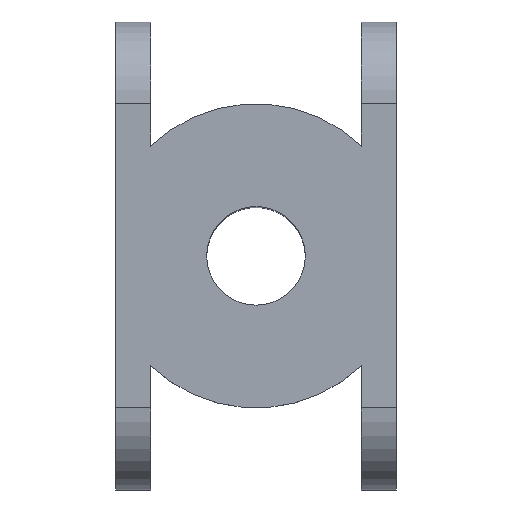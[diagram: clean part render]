
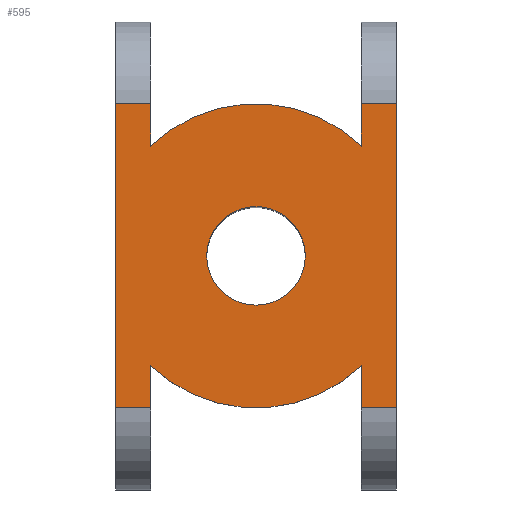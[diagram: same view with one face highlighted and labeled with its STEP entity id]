
A CAD part, top view. The second image highlights one B-rep face of the part: STEP entity #595.
In plain terms, the highlighted planar face has unit normal (0, 0, 1).
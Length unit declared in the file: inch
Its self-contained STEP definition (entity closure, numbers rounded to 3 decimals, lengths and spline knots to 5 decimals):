
#50=LINE('',#901,#106);
#53=LINE('',#915,#109);
#56=LINE('',#932,#112);
#57=LINE('',#938,#113);
#59=LINE('',#943,#115);
#63=LINE('',#950,#119);
#65=LINE('',#962,#121);
#66=LINE('',#970,#122);
#67=LINE('',#972,#123);
#68=LINE('',#975,#124);
#106=VECTOR('',#723,0.2262);
#109=VECTOR('',#738,0.2262);
#112=VECTOR('',#757,0.1875);
#113=VECTOR('',#762,0.1875);
#115=VECTOR('',#768,1.625);
#119=VECTOR('',#774,0.2262);
#121=VECTOR('',#788,0.1875);
#122=VECTOR('',#799,0.1875);
#123=VECTOR('',#802,1.625);
#124=VECTOR('',#805,0.2262);
#147=PLANE('',#652);
#163=FACE_BOUND('',#243,.T.);
#195=FACE_OUTER_BOUND('',#242,.T.);
#242=EDGE_LOOP('',(#535,#536,#537,#538,#539,#540,#541,#542,#543,#544,#545,
#546));
#243=EDGE_LOOP('',(#547));
#246=CIRCLE('',#601,0.2635);
#264=CIRCLE('',#648,0.8125);
#266=CIRCLE('',#651,0.8125);
#268=VERTEX_POINT('',#826);
#292=VERTEX_POINT('',#898);
#293=VERTEX_POINT('',#900);
#297=VERTEX_POINT('',#912);
#298=VERTEX_POINT('',#914);
#304=VERTEX_POINT('',#930);
#305=VERTEX_POINT('',#934);
#307=VERTEX_POINT('',#937);
#310=VERTEX_POINT('',#948);
#314=VERTEX_POINT('',#961);
#315=VERTEX_POINT('',#966);
#316=VERTEX_POINT('',#968);
#317=VERTEX_POINT('',#974);
#320=EDGE_CURVE('',#268,#268,#246,.T.);
#356=EDGE_CURVE('',#293,#292,#50,.T.);
#363=EDGE_CURVE('',#297,#298,#53,.T.);
#371=EDGE_CURVE('',#297,#304,#56,.T.);
#373=EDGE_CURVE('',#305,#307,#57,.T.);
#376=EDGE_CURVE('',#304,#307,#59,.T.);
#380=EDGE_CURVE('',#310,#305,#63,.T.);
#385=EDGE_CURVE('',#293,#314,#65,.T.);
#389=EDGE_CURVE('',#315,#316,#66,.T.);
#390=EDGE_CURVE('',#314,#316,#67,.T.);
#391=EDGE_CURVE('',#317,#315,#68,.T.);
#394=EDGE_CURVE('',#310,#317,#264,.T.);
#396=EDGE_CURVE('',#292,#298,#266,.T.);
#535=ORIENTED_EDGE('',*,*,#394,.T.);
#536=ORIENTED_EDGE('',*,*,#391,.T.);
#537=ORIENTED_EDGE('',*,*,#389,.T.);
#538=ORIENTED_EDGE('',*,*,#390,.F.);
#539=ORIENTED_EDGE('',*,*,#385,.F.);
#540=ORIENTED_EDGE('',*,*,#356,.T.);
#541=ORIENTED_EDGE('',*,*,#396,.T.);
#542=ORIENTED_EDGE('',*,*,#363,.F.);
#543=ORIENTED_EDGE('',*,*,#371,.T.);
#544=ORIENTED_EDGE('',*,*,#376,.T.);
#545=ORIENTED_EDGE('',*,*,#373,.F.);
#546=ORIENTED_EDGE('',*,*,#380,.F.);
#547=ORIENTED_EDGE('',*,*,#320,.T.);
#595=ADVANCED_FACE('',(#195,#163),#147,.T.);
#601=AXIS2_PLACEMENT_3D('',#827,#660,#661);
#648=AXIS2_PLACEMENT_3D('',#980,#810,#811);
#651=AXIS2_PLACEMENT_3D('',#983,#816,#817);
#652=AXIS2_PLACEMENT_3D('',#984,#818,#819);
#660=DIRECTION('center_axis',(0.,0.,-1.));
#661=DIRECTION('ref_axis',(1.,0.,0.));
#723=DIRECTION('',(0.,-1.,0.));
#738=DIRECTION('',(0.,-1.,0.));
#757=DIRECTION('',(-1.,0.,0.));
#762=DIRECTION('',(-1.,0.,0.));
#768=DIRECTION('',(0.,-1.,0.));
#774=DIRECTION('',(0.,-1.,0.));
#788=DIRECTION('',(1.,0.,0.));
#799=DIRECTION('',(1.,0.,0.));
#802=DIRECTION('',(0.,-1.,0.));
#805=DIRECTION('',(0.,-1.,0.));
#810=DIRECTION('center_axis',(0.,0.,1.));
#811=DIRECTION('ref_axis',(-0.692,-0.722,0.));
#816=DIRECTION('center_axis',(0.,0.,1.));
#817=DIRECTION('ref_axis',(0.692,0.722,0.));
#818=DIRECTION('center_axis',(0.,0.,1.));
#819=DIRECTION('ref_axis',(1.,0.,0.));
#826=CARTESIAN_POINT('',(0.2635,0.,0.));
#827=CARTESIAN_POINT('Origin',(0.,0.,0.));
#898=CARTESIAN_POINT('',(0.5625,0.5863,0.));
#900=CARTESIAN_POINT('',(0.5625,0.8125,0.));
#901=CARTESIAN_POINT('',(0.5625,-0.5863,0.));
#912=CARTESIAN_POINT('',(-0.5625,0.8125,0.));
#914=CARTESIAN_POINT('',(-0.5625,0.5863,0.));
#915=CARTESIAN_POINT('',(-0.5625,-0.5863,0.));
#930=CARTESIAN_POINT('',(-0.75,0.8125,0.));
#932=CARTESIAN_POINT('',(-0.5625,0.8125,0.));
#934=CARTESIAN_POINT('',(-0.5625,-0.8125,0.));
#937=CARTESIAN_POINT('',(-0.75,-0.8125,0.));
#938=CARTESIAN_POINT('',(-0.5625,-0.8125,0.));
#943=CARTESIAN_POINT('',(-0.75,0.8125,0.));
#948=CARTESIAN_POINT('',(-0.5625,-0.5863,0.));
#950=CARTESIAN_POINT('',(-0.5625,-0.5863,0.));
#961=CARTESIAN_POINT('',(0.75,0.8125,0.));
#962=CARTESIAN_POINT('',(0.5625,0.8125,0.));
#966=CARTESIAN_POINT('',(0.5625,-0.8125,0.));
#968=CARTESIAN_POINT('',(0.75,-0.8125,0.));
#970=CARTESIAN_POINT('',(0.5625,-0.8125,0.));
#972=CARTESIAN_POINT('',(0.75,0.8125,0.));
#974=CARTESIAN_POINT('',(0.5625,-0.5863,0.));
#975=CARTESIAN_POINT('',(0.5625,-0.5863,0.));
#980=CARTESIAN_POINT('Origin',(0.,0.,0.));
#983=CARTESIAN_POINT('Origin',(0.,0.,0.));
#984=CARTESIAN_POINT('Origin',(0.,0.,
0.));
